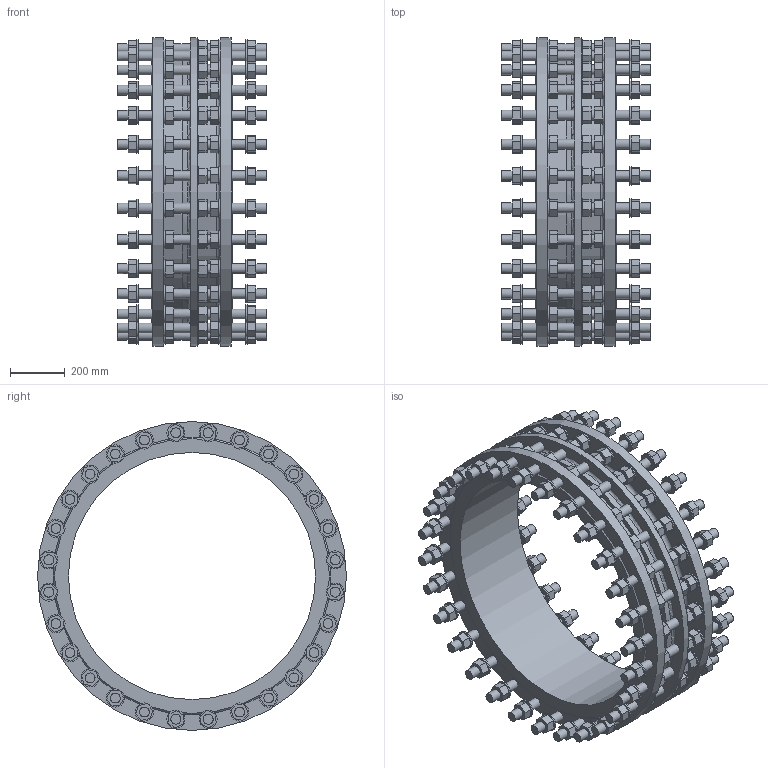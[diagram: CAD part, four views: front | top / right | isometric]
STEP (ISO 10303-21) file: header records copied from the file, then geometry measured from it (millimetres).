
FILE_DESCRIPTION (( 'STEP AP203' ), '1' );
FILE_NAME ('O_265_910_DN900_1XXXXX00_L=295_REV01.step', '2024-10-11T10:53:44', ( '' ), ( '' ), 'SwSTEP 2.0', 'SolidWorks 2022', '' );
FILE_SCHEMA (( 'CONFIG_CONTROL_DESIGN' ));
Length unit declared in the file: millimetre
Products named in the file (1): O_265_910_DN900_1XXXXX00_L=295_REV01
Bounding box: 545 x 1125 x 1125 mm (x, y, z)
Volume: 76358976.3 mm3; surface area: 5522186.5 mm2
Topology: 1 solids, 1 shells, 1628 faces, 3893 edges, 2642 vertices
Faces by surface type: plane 1280, cylinder 316, torus 29, cone 3
Full cylindrical faces by diameter (mm): 36 x168, 66 x140, 900 x1, 932 x1, 972 x1, 1125 x3
Entity records: 46156 total; most frequent: CARTESIAN_POINT 9634, DIRECTION 7273, ORIENTED_EDGE 6810, EDGE_CURVE 3405, VECTOR 2627, LINE 2627, VERTEX_POINT 2472, EDGE_LOOP 2435
